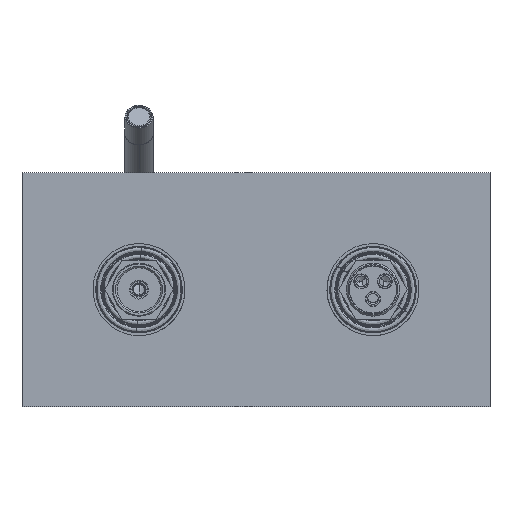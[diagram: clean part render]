
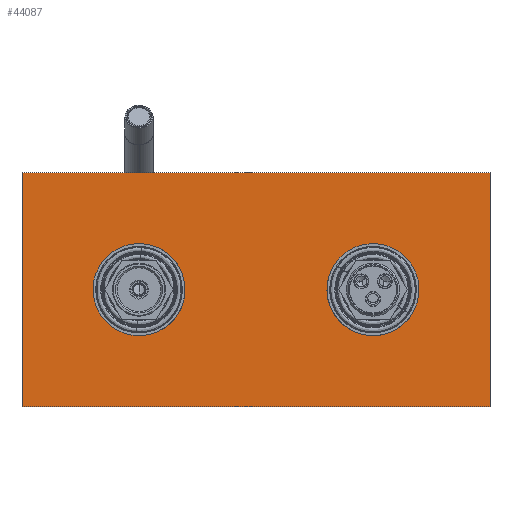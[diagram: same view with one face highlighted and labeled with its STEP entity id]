
A CAD part, front view. The second image highlights one B-rep face of the part: STEP entity #44087.
In plain terms, the highlighted planar face has unit normal (0, -1, 0).
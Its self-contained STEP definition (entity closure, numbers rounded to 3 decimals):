
#1041 = PLANE ( 'NONE',  #45345 ) ;
#1398 = CARTESIAN_POINT ( 'NONE',  ( -188.47, -13.907, 150. ) ) ;
#1415 = DIRECTION ( 'NONE',  ( -1., 0., 0. ) ) ;
#1859 = ORIENTED_EDGE ( 'NONE', *, *, #3959, .F. ) ;
#2550 = LINE ( 'NONE', #11586, #5352 ) ;
#2760 = DIRECTION ( 'NONE',  ( -1., 0., 0. ) ) ;
#2762 = CARTESIAN_POINT ( 'NONE',  ( -113.47, -13.907, 75. ) ) ;
#3959 = EDGE_CURVE ( 'NONE', #41862, #24049, #11363, .T. ) ;
#4436 = CARTESIAN_POINT ( 'NONE',  ( 111.53, -13.907, 150. ) ) ;
#5352 = VECTOR ( 'NONE', #40342, 1000. ) ;
#6436 = ORIENTED_EDGE ( 'NONE', *, *, #33748, .T. ) ;
#6560 = EDGE_CURVE ( 'NONE', #15683, #36966, #32204, .T. ) ;
#6723 = CARTESIAN_POINT ( 'NONE',  ( 19.03, -13.907, 75. ) ) ;
#9821 = CARTESIAN_POINT ( 'NONE',  ( 36.53, -13.907, 75. ) ) ;
#9863 = EDGE_LOOP ( 'NONE', ( #6436, #11260 ) ) ;
#10060 = DIRECTION ( 'NONE',  ( 0., 1., 0. ) ) ;
#11038 = EDGE_CURVE ( 'NONE', #14357, #26995, #21582, .T. ) ;
#11260 = ORIENTED_EDGE ( 'NONE', *, *, #6560, .T. ) ;
#11363 = LINE ( 'NONE', #1398, #13549 ) ;
#11586 = CARTESIAN_POINT ( 'NONE',  ( -188.47, -13.907, 0. ) ) ;
#12918 = CARTESIAN_POINT ( 'NONE',  ( 54.03, -13.907, 75. ) ) ;
#13220 = CIRCLE ( 'NONE', #39547, 17.5 ) ;
#13422 = CARTESIAN_POINT ( 'NONE',  ( -95.97, -13.907, 75. ) ) ;
#13464 = EDGE_CURVE ( 'NONE', #26995, #14357, #13220, .T. ) ;
#13549 = VECTOR ( 'NONE', #21536, 1000. ) ;
#14357 = VERTEX_POINT ( 'NONE', #43822 ) ;
#15349 = CARTESIAN_POINT ( 'NONE',  ( -113.47, -13.907, 75. ) ) ;
#15439 = CARTESIAN_POINT ( 'NONE',  ( -188.47, -13.907, 150. ) ) ;
#15683 = VERTEX_POINT ( 'NONE', #12918 ) ;
#16327 = ORIENTED_EDGE ( 'NONE', *, *, #11038, .T. ) ;
#16472 = CARTESIAN_POINT ( 'NONE',  ( 36.53, -13.907, 75. ) ) ;
#16764 = ORIENTED_EDGE ( 'NONE', *, *, #13464, .T. ) ;
#17404 = VECTOR ( 'NONE', #39560, 1000. ) ;
#17974 = CIRCLE ( 'NONE', #26279, 17.5 ) ;
#18231 = EDGE_CURVE ( 'NONE', #24049, #27628, #36723, .T. ) ;
#20217 = DIRECTION ( 'NONE',  ( 0., 1., 0. ) ) ;
#20693 = DIRECTION ( 'NONE',  ( 0., 1., 0. ) ) ;
#21536 = DIRECTION ( 'NONE',  ( 1., 0., 0. ) ) ;
#21582 = CIRCLE ( 'NONE', #35121, 17.5 ) ;
#24049 = VERTEX_POINT ( 'NONE', #25244 ) ;
#24865 = ORIENTED_EDGE ( 'NONE', *, *, #25392, .T. ) ;
#25244 = CARTESIAN_POINT ( 'NONE',  ( 111.53, -13.907, 150. ) ) ;
#25392 = EDGE_CURVE ( 'NONE', #32507, #27628, #2550, .T. ) ;
#25401 = ORIENTED_EDGE ( 'NONE', *, *, #18231, .F. ) ;
#25639 = DIRECTION ( 'NONE',  ( 0., 0., -1. ) ) ;
#26279 = AXIS2_PLACEMENT_3D ( 'NONE', #16472, #34385, #30852 ) ;
#26995 = VERTEX_POINT ( 'NONE', #13422 ) ;
#27628 = VERTEX_POINT ( 'NONE', #35340 ) ;
#28135 = EDGE_LOOP ( 'NONE', ( #16327, #16764 ) ) ;
#28522 = CARTESIAN_POINT ( 'NONE',  ( -188.47, -13.907, 150. ) ) ;
#29581 = DIRECTION ( 'NONE',  ( 0., 0., 1. ) ) ;
#30018 = VECTOR ( 'NONE', #25639, 1000. ) ;
#30852 = DIRECTION ( 'NONE',  ( -1., 0., 0. ) ) ;
#32204 = CIRCLE ( 'NONE', #39002, 17.5 ) ;
#32507 = VERTEX_POINT ( 'NONE', #43489 ) ;
#32922 = CARTESIAN_POINT ( 'NONE',  ( -188.47, -13.907, 150. ) ) ;
#33748 = EDGE_CURVE ( 'NONE', #36966, #15683, #17974, .T. ) ;
#33989 = EDGE_CURVE ( 'NONE', #41862, #32507, #36200, .T. ) ;
#34385 = DIRECTION ( 'NONE',  ( 0., 1., 0. ) ) ;
#35121 = AXIS2_PLACEMENT_3D ( 'NONE', #15349, #10060, #1415 ) ;
#35340 = CARTESIAN_POINT ( 'NONE',  ( 111.53, -13.907, 0. ) ) ;
#36200 = LINE ( 'NONE', #32922, #30018 ) ;
#36244 = ORIENTED_EDGE ( 'NONE', *, *, #33989, .T. ) ;
#36723 = LINE ( 'NONE', #4436, #17404 ) ;
#36966 = VERTEX_POINT ( 'NONE', #6723 ) ;
#39002 = AXIS2_PLACEMENT_3D ( 'NONE', #9821, #20217, #2760 ) ;
#39547 = AXIS2_PLACEMENT_3D ( 'NONE', #2762, #20693, #42145 ) ;
#39560 = DIRECTION ( 'NONE',  ( 0., 0., -1. ) ) ;
#40173 = FACE_BOUND ( 'NONE', #28135, .T. ) ;
#40342 = DIRECTION ( 'NONE',  ( 1., 0., 0. ) ) ;
#40402 = FACE_BOUND ( 'NONE', #9863, .T. ) ;
#41862 = VERTEX_POINT ( 'NONE', #28522 ) ;
#42145 = DIRECTION ( 'NONE',  ( -1., 0., 0. ) ) ;
#43489 = CARTESIAN_POINT ( 'NONE',  ( -188.47, -13.907, 0. ) ) ;
#43716 = DIRECTION ( 'NONE',  ( 0., 1., 0. ) ) ;
#43822 = CARTESIAN_POINT ( 'NONE',  ( -130.97, -13.907, 75. ) ) ;
#44087 = ADVANCED_FACE ( 'NONE', ( #40402, #40173, #44183 ), #1041, .F. ) ;
#44183 = FACE_OUTER_BOUND ( 'NONE', #45552, .T. ) ;
#45345 = AXIS2_PLACEMENT_3D ( 'NONE', #15439, #43716, #29581 ) ;
#45552 = EDGE_LOOP ( 'NONE', ( #24865, #25401, #1859, #36244 ) ) ;
